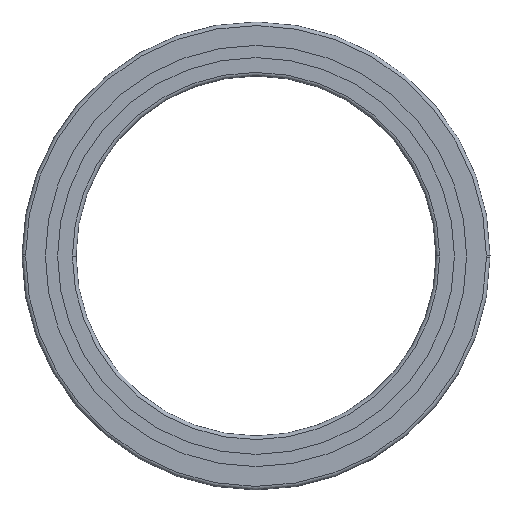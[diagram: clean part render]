
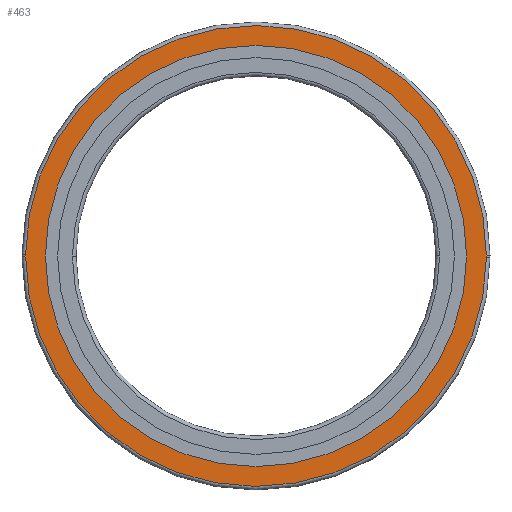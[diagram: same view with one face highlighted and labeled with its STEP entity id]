
A CAD part, front view. The second image highlights one B-rep face of the part: STEP entity #463.
In plain terms, the highlighted planar face has unit normal (0, -1, 0).
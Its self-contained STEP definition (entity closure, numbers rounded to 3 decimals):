
#315=VERTEX_POINT('',#853);
#463=ADVANCED_FACE('',(#1024,#1025),#1026,.F.);
#469=VERTEX_POINT('',#1032);
#531=EDGE_CURVE('',#469,#675,#1103,.T.);
#533=EDGE_CURVE('',#655,#745,#1105,.T.);
#655=VERTEX_POINT('',#1246);
#675=VERTEX_POINT('',#1267);
#677=VERTEX_POINT('',#1269);
#711=EDGE_CURVE('',#675,#315,#1306,.T.);
#725=EDGE_CURVE('',#745,#655,#1321,.T.);
#745=VERTEX_POINT('',#1341);
#779=EDGE_CURVE('',#315,#677,#1380,.T.);
#793=EDGE_CURVE('',#677,#469,#1394,.T.);
#853=CARTESIAN_POINT('',(-128.0,0.0,0.));
#1024=FACE_OUTER_BOUND('',#1662,.T.);
#1025=FACE_BOUND('',#1663,.T.);
#1026=PLANE('',#1664);
#1032=CARTESIAN_POINT('',(128.0,0.0,0.0));
#1103=CIRCLE('',#1758,128.0);
#1105=CIRCLE('',#1761,117.0);
#1246=CARTESIAN_POINT('',(117.0,0.0,0.));
#1267=CARTESIAN_POINT('',(-127.998,0.0,0.793));
#1269=CARTESIAN_POINT('',(127.998,0.0,-0.793));
#1306=CIRCLE('',#2006,128.0);
#1321=CIRCLE('',#2023,117.0);
#1341=CARTESIAN_POINT('',(-117.0,0.0,0.0));
#1380=CIRCLE('',#2099,128.0);
#1394=CIRCLE('',#2119,128.0);
#1662=EDGE_LOOP('',(#2404,#2405,#2406,#2407));
#1663=EDGE_LOOP('',(#2408,#2409));
#1664=AXIS2_PLACEMENT_3D('',#2410,#2411,#2412);
#1758=AXIS2_PLACEMENT_3D('',#2523,#2524,#2525);
#1761=AXIS2_PLACEMENT_3D('',#2526,#2527,#2528);
#2006=AXIS2_PLACEMENT_3D('',#2803,#2804,#2805);
#2023=AXIS2_PLACEMENT_3D('',#2821,#2822,#2823);
#2099=AXIS2_PLACEMENT_3D('',#2898,#2899,#2900);
#2119=AXIS2_PLACEMENT_3D('',#2911,#2912,#2913);
#2404=ORIENTED_EDGE('',*,*,#779,.T.);
#2405=ORIENTED_EDGE('',*,*,#793,.T.);
#2406=ORIENTED_EDGE('',*,*,#531,.T.);
#2407=ORIENTED_EDGE('',*,*,#711,.T.);
#2408=ORIENTED_EDGE('',*,*,#725,.F.);
#2409=ORIENTED_EDGE('',*,*,#533,.F.);
#2410=CARTESIAN_POINT('',(0.0,0.0,0.0));
#2411=DIRECTION('',(0.0,1.0,0.0));
#2412=DIRECTION('',(1.0,0.0,-0.0));
#2523=CARTESIAN_POINT('',(0.0,0.0,0.0));
#2524=DIRECTION('',(0.0,-1.0,0.0));
#2525=DIRECTION('',(1.0,0.0,0.0));
#2526=CARTESIAN_POINT('',(0.0,0.0,0.0));
#2527=DIRECTION('',(0.0,-1.0,0.0));
#2528=DIRECTION('',(1.0,0.0,0.0));
#2803=CARTESIAN_POINT('',(0.0,0.0,0.0));
#2804=DIRECTION('',(0.0,-1.0,0.0));
#2805=DIRECTION('',(1.0,0.0,0.0));
#2821=CARTESIAN_POINT('',(0.0,0.0,0.0));
#2822=DIRECTION('',(0.0,-1.0,0.0));
#2823=DIRECTION('',(-1.0,0.0,0.0));
#2898=CARTESIAN_POINT('',(0.0,0.0,0.0));
#2899=DIRECTION('',(0.0,-1.0,0.0));
#2900=DIRECTION('',(-1.0,0.0,0.0));
#2911=CARTESIAN_POINT('',(0.0,0.0,0.0));
#2912=DIRECTION('',(0.0,-1.0,0.0));
#2913=DIRECTION('',(-1.0,0.0,0.0));
